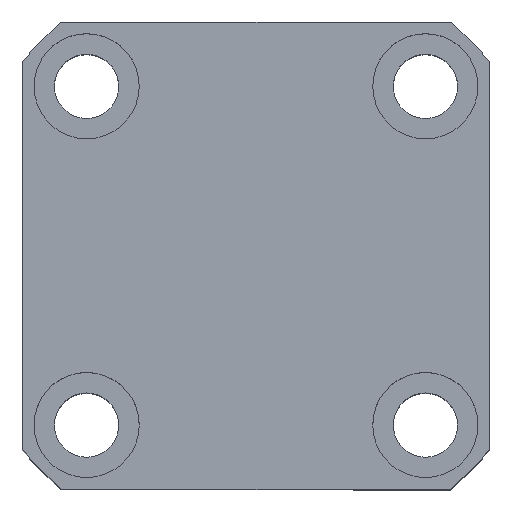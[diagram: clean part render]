
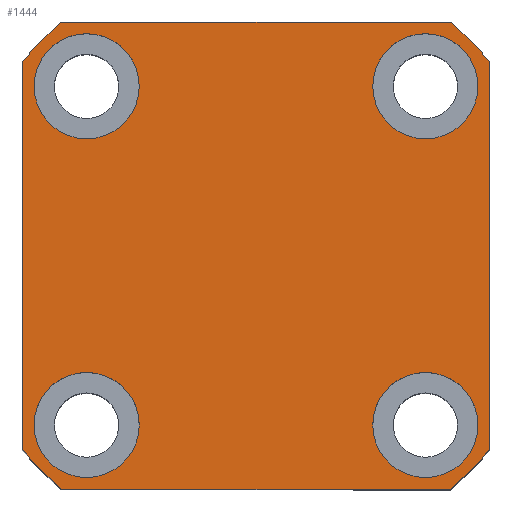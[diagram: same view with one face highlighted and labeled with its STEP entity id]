
A CAD part, top view. The second image highlights one B-rep face of the part: STEP entity #1444.
In plain terms, the highlighted planar face has unit normal (0, 0, 1).
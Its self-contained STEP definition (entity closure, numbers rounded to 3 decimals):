
#134 = EDGE_CURVE ( 'NONE', #6997, #1643, #13111, .T. ) ;
#139 = DIRECTION ( 'NONE',  ( 0., 0., 1. ) ) ;
#278 = ORIENTED_EDGE ( 'NONE', *, *, #13750, .T. ) ;
#481 = CARTESIAN_POINT ( 'NONE',  ( -29., -29., 37.5 ) ) ;
#599 = EDGE_CURVE ( 'NONE', #4532, #10249, #7954, .T. ) ;
#906 = AXIS2_PLACEMENT_3D ( 'NONE', #481, #9390, #9269 ) ;
#960 = DIRECTION ( 'NONE',  ( 0., 0., 1. ) ) ;
#1007 = FACE_BOUND ( 'NONE', #13980, .T. ) ;
#1061 = AXIS2_PLACEMENT_3D ( 'NONE', #11921, #5339, #13017 ) ;
#1080 = DIRECTION ( 'NONE',  ( 1., 0., 0. ) ) ;
#1137 = CARTESIAN_POINT ( 'NONE',  ( 29., -29., 37.5 ) ) ;
#1160 = EDGE_LOOP ( 'NONE', ( #10493, #7637, #7624, #4066, #6701, #278, #8524, #4467 ) ) ;
#1162 = AXIS2_PLACEMENT_3D ( 'NONE', #13682, #9413, #10413 ) ;
#1185 = VECTOR ( 'NONE', #5433, 1000. ) ;
#1281 = CARTESIAN_POINT ( 'NONE',  ( 0., 0., 37.5 ) ) ;
#1304 = EDGE_CURVE ( 'NONE', #9713, #4219, #8207, .T. ) ;
#1355 = FACE_BOUND ( 'NONE', #7573, .T. ) ;
#1425 = DIRECTION ( 'NONE',  ( 0., 0., 1. ) ) ;
#1444 = ADVANCED_FACE ( 'NONE', ( #1355, #2892, #11293, #1007, #6327 ), #11730, .T. ) ;
#1589 = CARTESIAN_POINT ( 'NONE',  ( -33.226, -40., 37.5 ) ) ;
#1616 = EDGE_CURVE ( 'NONE', #4219, #9713, #8560, .T. ) ;
#1643 = VERTEX_POINT ( 'NONE', #13948 ) ;
#1722 = ORIENTED_EDGE ( 'NONE', *, *, #8613, .F. ) ;
#1742 = LINE ( 'NONE', #10266, #2604 ) ;
#1818 = EDGE_CURVE ( 'NONE', #9318, #9349, #4088, .T. ) ;
#1978 = ORIENTED_EDGE ( 'NONE', *, *, #2550, .F. ) ;
#2122 = DIRECTION ( 'NONE',  ( 1., 0., 0. ) ) ;
#2143 = EDGE_CURVE ( 'NONE', #12230, #5227, #4946, .T. ) ;
#2237 = VERTEX_POINT ( 'NONE', #7118 ) ;
#2303 = CARTESIAN_POINT ( 'NONE',  ( -29., 29., 37.5 ) ) ;
#2460 = VERTEX_POINT ( 'NONE', #8611 ) ;
#2550 = EDGE_CURVE ( 'NONE', #5517, #2237, #9579, .T. ) ;
#2604 = VECTOR ( 'NONE', #3025, 1000. ) ;
#2853 = CARTESIAN_POINT ( 'NONE',  ( -40., 33.226, 37.5 ) ) ;
#2892 = FACE_BOUND ( 'NONE', #5581, .T. ) ;
#3025 = DIRECTION ( 'NONE',  ( 0., -1., 0. ) ) ;
#3186 = CARTESIAN_POINT ( 'NONE',  ( -20., -29., 37.5 ) ) ;
#3190 = CARTESIAN_POINT ( 'NONE',  ( 33.226, 40., 37.5 ) ) ;
#3355 = DIRECTION ( 'NONE',  ( 0., 0., 1. ) ) ;
#3517 = ORIENTED_EDGE ( 'NONE', *, *, #8738, .F. ) ;
#4066 = ORIENTED_EDGE ( 'NONE', *, *, #10423, .T. ) ;
#4088 = CIRCLE ( 'NONE', #5576, 9. ) ;
#4219 = VERTEX_POINT ( 'NONE', #3186 ) ;
#4467 = ORIENTED_EDGE ( 'NONE', *, *, #2143, .T. ) ;
#4532 = VERTEX_POINT ( 'NONE', #12719 ) ;
#4580 = DIRECTION ( 'NONE',  ( 1., 0., 0. ) ) ;
#4831 = CARTESIAN_POINT ( 'NONE',  ( 20., -29., 37.5 ) ) ;
#4927 = AXIS2_PLACEMENT_3D ( 'NONE', #7819, #6708, #7924 ) ;
#4943 = DIRECTION ( 'NONE',  ( 1., 0., 0. ) ) ;
#4946 = LINE ( 'NONE', #11055, #12655 ) ;
#4949 = CIRCLE ( 'NONE', #5844, 9. ) ;
#5227 = VERTEX_POINT ( 'NONE', #11183 ) ;
#5268 = EDGE_CURVE ( 'NONE', #9349, #9318, #5340, .T. ) ;
#5339 = DIRECTION ( 'NONE',  ( 0., 0., 1. ) ) ;
#5340 = CIRCLE ( 'NONE', #9416, 9. ) ;
#5433 = DIRECTION ( 'NONE',  ( 0., 1., 0. ) ) ;
#5517 = VERTEX_POINT ( 'NONE', #9516 ) ;
#5576 = AXIS2_PLACEMENT_3D ( 'NONE', #6553, #960, #2122 ) ;
#5581 = EDGE_LOOP ( 'NONE', ( #12802, #7092 ) ) ;
#5660 = AXIS2_PLACEMENT_3D ( 'NONE', #7640, #13205, #1080 ) ;
#5692 = LINE ( 'NONE', #1589, #9645 ) ;
#5844 = AXIS2_PLACEMENT_3D ( 'NONE', #2303, #12302, #4580 ) ;
#5856 = AXIS2_PLACEMENT_3D ( 'NONE', #13245, #3355, #14148 ) ;
#5888 = VERTEX_POINT ( 'NONE', #4831 ) ;
#5972 = DIRECTION ( 'NONE',  ( 1., 0., 0. ) ) ;
#6327 = FACE_OUTER_BOUND ( 'NONE', #1160, .T. ) ;
#6329 = CIRCLE ( 'NONE', #5660, 52. ) ;
#6505 = EDGE_LOOP ( 'NONE', ( #1722, #1978 ) ) ;
#6553 = CARTESIAN_POINT ( 'NONE',  ( 29., 29., 37.5 ) ) ;
#6674 = CIRCLE ( 'NONE', #12344, 9. ) ;
#6701 = ORIENTED_EDGE ( 'NONE', *, *, #134, .T. ) ;
#6708 = DIRECTION ( 'NONE',  ( 0., 0., 1. ) ) ;
#6845 = AXIS2_PLACEMENT_3D ( 'NONE', #7545, #12924, #9615 ) ;
#6997 = VERTEX_POINT ( 'NONE', #9308 ) ;
#7063 = ORIENTED_EDGE ( 'NONE', *, *, #5268, .F. ) ;
#7092 = ORIENTED_EDGE ( 'NONE', *, *, #1304, .F. ) ;
#7118 = CARTESIAN_POINT ( 'NONE',  ( -20., 29., 37.5 ) ) ;
#7266 = EDGE_CURVE ( 'NONE', #5888, #2460, #6674, .T. ) ;
#7461 = EDGE_CURVE ( 'NONE', #5227, #12963, #8748, .T. ) ;
#7545 = CARTESIAN_POINT ( 'NONE',  ( 0., 0., 37.5 ) ) ;
#7554 = CARTESIAN_POINT ( 'NONE',  ( 40., 33.226, 37.5 ) ) ;
#7573 = EDGE_LOOP ( 'NONE', ( #3517, #12042 ) ) ;
#7624 = ORIENTED_EDGE ( 'NONE', *, *, #599, .T. ) ;
#7637 = ORIENTED_EDGE ( 'NONE', *, *, #11353, .T. ) ;
#7640 = CARTESIAN_POINT ( 'NONE',  ( 0., 0., 37.5 ) ) ;
#7819 = CARTESIAN_POINT ( 'NONE',  ( 0., 0., 37.5 ) ) ;
#7924 = DIRECTION ( 'NONE',  ( 1., 0., 0. ) ) ;
#7954 = CIRCLE ( 'NONE', #4927, 52. ) ;
#7970 = CARTESIAN_POINT ( 'NONE',  ( -38., -29., 37.5 ) ) ;
#7992 = CARTESIAN_POINT ( 'NONE',  ( 29., -29., 37.5 ) ) ;
#8046 = LINE ( 'NONE', #7554, #1185 ) ;
#8093 = CARTESIAN_POINT ( 'NONE',  ( -33.226, -40., 37.5 ) ) ;
#8122 = AXIS2_PLACEMENT_3D ( 'NONE', #1281, #9344, #13694 ) ;
#8207 = CIRCLE ( 'NONE', #1162, 9. ) ;
#8524 = ORIENTED_EDGE ( 'NONE', *, *, #13829, .T. ) ;
#8560 = CIRCLE ( 'NONE', #906, 9. ) ;
#8611 = CARTESIAN_POINT ( 'NONE',  ( 38., -29., 37.5 ) ) ;
#8613 = EDGE_CURVE ( 'NONE', #2237, #5517, #4949, .T. ) ;
#8738 = EDGE_CURVE ( 'NONE', #2460, #5888, #11032, .T. ) ;
#8748 = CIRCLE ( 'NONE', #8122, 52. ) ;
#9193 = DIRECTION ( 'NONE',  ( -1., 0., 0. ) ) ;
#9227 = CARTESIAN_POINT ( 'NONE',  ( 29., 29., 37.5 ) ) ;
#9269 = DIRECTION ( 'NONE',  ( 1., 0., 0. ) ) ;
#9308 = CARTESIAN_POINT ( 'NONE',  ( 33.226, -40., 37.5 ) ) ;
#9318 = VERTEX_POINT ( 'NONE', #10546 ) ;
#9344 = DIRECTION ( 'NONE',  ( 0., 0., 1. ) ) ;
#9349 = VERTEX_POINT ( 'NONE', #14002 ) ;
#9390 = DIRECTION ( 'NONE',  ( 0., 0., 1. ) ) ;
#9413 = DIRECTION ( 'NONE',  ( 0., 0., 1. ) ) ;
#9416 = AXIS2_PLACEMENT_3D ( 'NONE', #9227, #12535, #12587 ) ;
#9516 = CARTESIAN_POINT ( 'NONE',  ( -38., 29., 37.5 ) ) ;
#9579 = CIRCLE ( 'NONE', #5856, 9. ) ;
#9615 = DIRECTION ( 'NONE',  ( 1., 0., 0. ) ) ;
#9645 = VECTOR ( 'NONE', #4943, 1000. ) ;
#9713 = VERTEX_POINT ( 'NONE', #7970 ) ;
#9864 = VERTEX_POINT ( 'NONE', #11362 ) ;
#10249 = VERTEX_POINT ( 'NONE', #8093 ) ;
#10266 = CARTESIAN_POINT ( 'NONE',  ( -40., 33.226, 37.5 ) ) ;
#10413 = DIRECTION ( 'NONE',  ( 1., 0., 0. ) ) ;
#10423 = EDGE_CURVE ( 'NONE', #10249, #6997, #5692, .T. ) ;
#10493 = ORIENTED_EDGE ( 'NONE', *, *, #7461, .T. ) ;
#10546 = CARTESIAN_POINT ( 'NONE',  ( 38., 29., 37.5 ) ) ;
#10954 = DIRECTION ( 'NONE',  ( 1., 0., 0. ) ) ;
#11032 = CIRCLE ( 'NONE', #13728, 9. ) ;
#11055 = CARTESIAN_POINT ( 'NONE',  ( -33.226, 40., 37.5 ) ) ;
#11183 = CARTESIAN_POINT ( 'NONE',  ( -33.226, 40., 37.5 ) ) ;
#11293 = FACE_BOUND ( 'NONE', #6505, .T. ) ;
#11353 = EDGE_CURVE ( 'NONE', #12963, #4532, #1742, .T. ) ;
#11362 = CARTESIAN_POINT ( 'NONE',  ( 40., 33.226, 37.5 ) ) ;
#11730 = PLANE ( 'NONE',  #6845 ) ;
#11921 = CARTESIAN_POINT ( 'NONE',  ( 0., 0., 37.5 ) ) ;
#12042 = ORIENTED_EDGE ( 'NONE', *, *, #7266, .F. ) ;
#12230 = VERTEX_POINT ( 'NONE', #3190 ) ;
#12302 = DIRECTION ( 'NONE',  ( 0., 0., 1. ) ) ;
#12344 = AXIS2_PLACEMENT_3D ( 'NONE', #1137, #139, #10954 ) ;
#12437 = ORIENTED_EDGE ( 'NONE', *, *, #1818, .F. ) ;
#12535 = DIRECTION ( 'NONE',  ( 0., 0., 1. ) ) ;
#12587 = DIRECTION ( 'NONE',  ( 1., 0., 0. ) ) ;
#12655 = VECTOR ( 'NONE', #9193, 1000. ) ;
#12719 = CARTESIAN_POINT ( 'NONE',  ( -40., -33.226, 37.5 ) ) ;
#12802 = ORIENTED_EDGE ( 'NONE', *, *, #1616, .F. ) ;
#12924 = DIRECTION ( 'NONE',  ( 0., 0., 1. ) ) ;
#12963 = VERTEX_POINT ( 'NONE', #2853 ) ;
#13017 = DIRECTION ( 'NONE',  ( 1., 0., 0. ) ) ;
#13111 = CIRCLE ( 'NONE', #1061, 52. ) ;
#13205 = DIRECTION ( 'NONE',  ( 0., 0., 1. ) ) ;
#13245 = CARTESIAN_POINT ( 'NONE',  ( -29., 29., 37.5 ) ) ;
#13682 = CARTESIAN_POINT ( 'NONE',  ( -29., -29., 37.5 ) ) ;
#13694 = DIRECTION ( 'NONE',  ( 1., 0., 0. ) ) ;
#13728 = AXIS2_PLACEMENT_3D ( 'NONE', #7992, #1425, #5972 ) ;
#13750 = EDGE_CURVE ( 'NONE', #1643, #9864, #8046, .T. ) ;
#13829 = EDGE_CURVE ( 'NONE', #9864, #12230, #6329, .T. ) ;
#13948 = CARTESIAN_POINT ( 'NONE',  ( 40., -33.226, 37.5 ) ) ;
#13980 = EDGE_LOOP ( 'NONE', ( #12437, #7063 ) ) ;
#14002 = CARTESIAN_POINT ( 'NONE',  ( 20., 29., 37.5 ) ) ;
#14148 = DIRECTION ( 'NONE',  ( 1., 0., 0. ) ) ;
